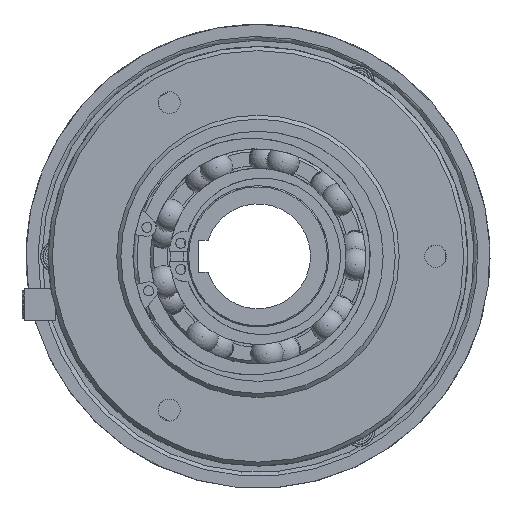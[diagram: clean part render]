
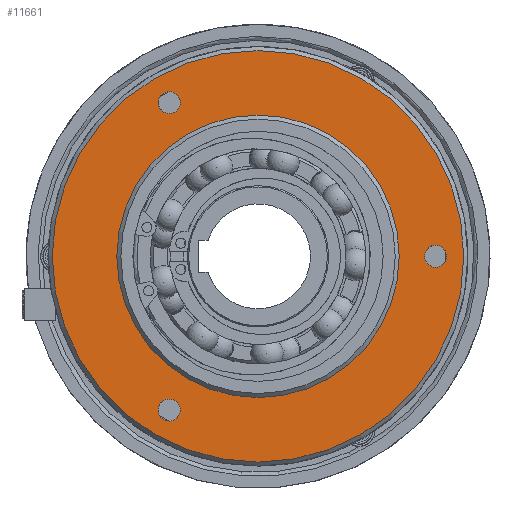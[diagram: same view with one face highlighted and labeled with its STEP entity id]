
A CAD part, left-side view. The second image highlights one B-rep face of the part: STEP entity #11661.
In plain terms, the highlighted planar face has unit normal (-1, 0, 0).
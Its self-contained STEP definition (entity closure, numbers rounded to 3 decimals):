
#670=FACE_BOUND('',#3513,.T.);
#671=FACE_BOUND('',#3514,.T.);
#672=FACE_BOUND('',#3515,.T.);
#673=FACE_BOUND('',#3516,.T.);
#1003=PLANE('',#12766);
#2734=FACE_OUTER_BOUND('',#3512,.T.);
#3512=EDGE_LOOP('',(#9138));
#3513=EDGE_LOOP('',(#9139));
#3514=EDGE_LOOP('',(#9140));
#3515=EDGE_LOOP('',(#9141));
#3516=EDGE_LOOP('',(#9142));
#4336=CIRCLE('',#12730,2.73);
#4350=CIRCLE('',#12754,2.73);
#4352=CIRCLE('',#12759,2.73);
#4354=CIRCLE('',#12763,35.);
#4356=CIRCLE('',#12767,51.);
#5273=VERTEX_POINT('',#23408);
#5289=VERTEX_POINT('',#23460);
#5292=VERTEX_POINT('',#23472);
#5294=VERTEX_POINT('',#23478);
#5296=VERTEX_POINT('',#23484);
#6659=EDGE_CURVE('',#5273,#5273,#4336,.T.);
#6685=EDGE_CURVE('',#5289,#5289,#4350,.T.);
#6691=EDGE_CURVE('',#5292,#5292,#4352,.T.);
#6693=EDGE_CURVE('',#5294,#5294,#4354,.T.);
#6695=EDGE_CURVE('',#5296,#5296,#4356,.T.);
#9138=ORIENTED_EDGE('',*,*,#6695,.F.);
#9139=ORIENTED_EDGE('',*,*,#6693,.T.);
#9140=ORIENTED_EDGE('',*,*,#6659,.T.);
#9141=ORIENTED_EDGE('',*,*,#6685,.T.);
#9142=ORIENTED_EDGE('',*,*,#6691,.T.);
#11661=ADVANCED_FACE('',(#2734,#670,#671,#672,#673),#1003,.T.);
#12730=AXIS2_PLACEMENT_3D('',#23409,#15211,#15212);
#12754=AXIS2_PLACEMENT_3D('',#23461,#15271,#15272);
#12759=AXIS2_PLACEMENT_3D('',#23473,#15285,#15286);
#12763=AXIS2_PLACEMENT_3D('',#23479,#15293,#15294);
#12766=AXIS2_PLACEMENT_3D('',#23483,#15299,#15300);
#12767=AXIS2_PLACEMENT_3D('',#23485,#15301,#15302);
#15211=DIRECTION('center_axis',(1.,0.,0.));
#15212=DIRECTION('ref_axis',(0.,1.,0.));
#15271=DIRECTION('center_axis',(1.,0.,0.));
#15272=DIRECTION('ref_axis',(0.,-0.5,0.866));
#15285=DIRECTION('center_axis',(1.,0.,0.));
#15286=DIRECTION('ref_axis',(0.,-0.5,-0.866));
#15293=DIRECTION('center_axis',(1.,0.,0.));
#15294=DIRECTION('ref_axis',(0.,0.,
-1.));
#15299=DIRECTION('center_axis',(-1.,0.,0.));
#15300=DIRECTION('ref_axis',(0.,1.,0.));
#15301=DIRECTION('center_axis',(1.,0.,0.));
#15302=DIRECTION('ref_axis',(0.,0.,
1.));
#23408=CARTESIAN_POINT('',(-86.5,24.73,-38.105));
#23409=CARTESIAN_POINT('Origin',(-86.5,22.,-38.105));
#23460=CARTESIAN_POINT('',(-86.5,20.635,40.469));
#23461=CARTESIAN_POINT('Origin',(-86.5,22.,38.105));
#23472=CARTESIAN_POINT('',(-86.5,-45.365,-2.364));
#23473=CARTESIAN_POINT('Origin',(-86.5,-44.,0.));
#23478=CARTESIAN_POINT('',(-86.5,0.,-35.));
#23479=CARTESIAN_POINT('Origin',(-86.5,0.,
0.));
#23483=CARTESIAN_POINT('Origin',(-86.5,0.,
-43.5));
#23484=CARTESIAN_POINT('',(-86.5,0.,-51.));
#23485=CARTESIAN_POINT('Origin',(-86.5,0.,
0.));
